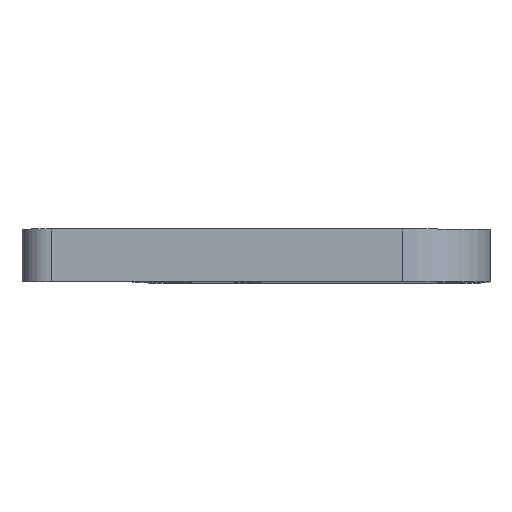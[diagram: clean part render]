
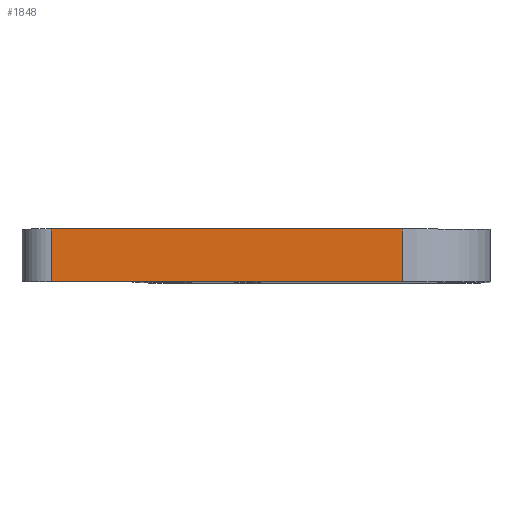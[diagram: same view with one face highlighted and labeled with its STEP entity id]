
A CAD part, top view. The second image highlights one B-rep face of the part: STEP entity #1848.
In plain terms, the highlighted planar face has unit normal (0, 0, 1).
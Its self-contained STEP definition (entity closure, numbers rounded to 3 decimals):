
#56 = ORIENTED_EDGE ( 'NONE', *, *, #697, .F. ) ;
#216 = CARTESIAN_POINT ( 'NONE',  ( -45., 0., 67.5 ) ) ;
#226 = ORIENTED_EDGE ( 'NONE', *, *, #2127, .T. ) ;
#266 = DIRECTION ( 'NONE',  ( 1., 0., 0. ) ) ;
#305 = DIRECTION ( 'NONE',  ( 1., 0., 0. ) ) ;
#537 = DIRECTION ( 'NONE',  ( 0., -1., 0. ) ) ;
#588 = CARTESIAN_POINT ( 'NONE',  ( 15., 0., 67.5 ) ) ;
#649 = LINE ( 'NONE', #1165, #1878 ) ;
#697 = EDGE_CURVE ( 'NONE', #3460, #2287, #1467, .T. ) ;
#744 = FACE_OUTER_BOUND ( 'NONE', #1438, .T. ) ;
#868 = VECTOR ( 'NONE', #266, 1000. ) ;
#870 = DIRECTION ( 'NONE',  ( -1., 0., 0. ) ) ;
#991 = DIRECTION ( 'NONE',  ( 0., 0., -1. ) ) ;
#1116 = ORIENTED_EDGE ( 'NONE', *, *, #1410, .T. ) ;
#1120 = LINE ( 'NONE', #2407, #2776 ) ;
#1165 = CARTESIAN_POINT ( 'NONE',  ( -30., 0., 67.5 ) ) ;
#1390 = CARTESIAN_POINT ( 'NONE',  ( 15., 9., 67.5 ) ) ;
#1395 = LINE ( 'NONE', #2785, #3131 ) ;
#1410 = EDGE_CURVE ( 'NONE', #1810, #1831, #649, .T. ) ;
#1435 = DIRECTION ( 'NONE',  ( 0., 1., 0. ) ) ;
#1438 = EDGE_LOOP ( 'NONE', ( #1116, #2478, #56, #226 ) ) ;
#1467 = LINE ( 'NONE', #2889, #868 ) ;
#1574 = CARTESIAN_POINT ( 'NONE',  ( -45., 9., 67.5 ) ) ;
#1808 = CARTESIAN_POINT ( 'NONE',  ( -30., 9., 67.5 ) ) ;
#1810 = VERTEX_POINT ( 'NONE', #216 ) ;
#1831 = VERTEX_POINT ( 'NONE', #588 ) ;
#1848 = ADVANCED_FACE ( 'NONE', ( #744 ), #2960, .F. ) ;
#1878 = VECTOR ( 'NONE', #305, 1000. ) ;
#2127 = EDGE_CURVE ( 'NONE', #3460, #1810, #1120, .T. ) ;
#2287 = VERTEX_POINT ( 'NONE', #1390 ) ;
#2407 = CARTESIAN_POINT ( 'NONE',  ( -45., 0., 67.5 ) ) ;
#2478 = ORIENTED_EDGE ( 'NONE', *, *, #3319, .T. ) ;
#2776 = VECTOR ( 'NONE', #537, 1000. ) ;
#2785 = CARTESIAN_POINT ( 'NONE',  ( 15., 9., 67.5 ) ) ;
#2889 = CARTESIAN_POINT ( 'NONE',  ( -30., 9., 67.5 ) ) ;
#2960 = PLANE ( 'NONE',  #3214 ) ;
#3131 = VECTOR ( 'NONE', #1435, 1000. ) ;
#3214 = AXIS2_PLACEMENT_3D ( 'NONE', #1808, #991, #870 ) ;
#3319 = EDGE_CURVE ( 'NONE', #1831, #2287, #1395, .T. ) ;
#3460 = VERTEX_POINT ( 'NONE', #1574 ) ;
